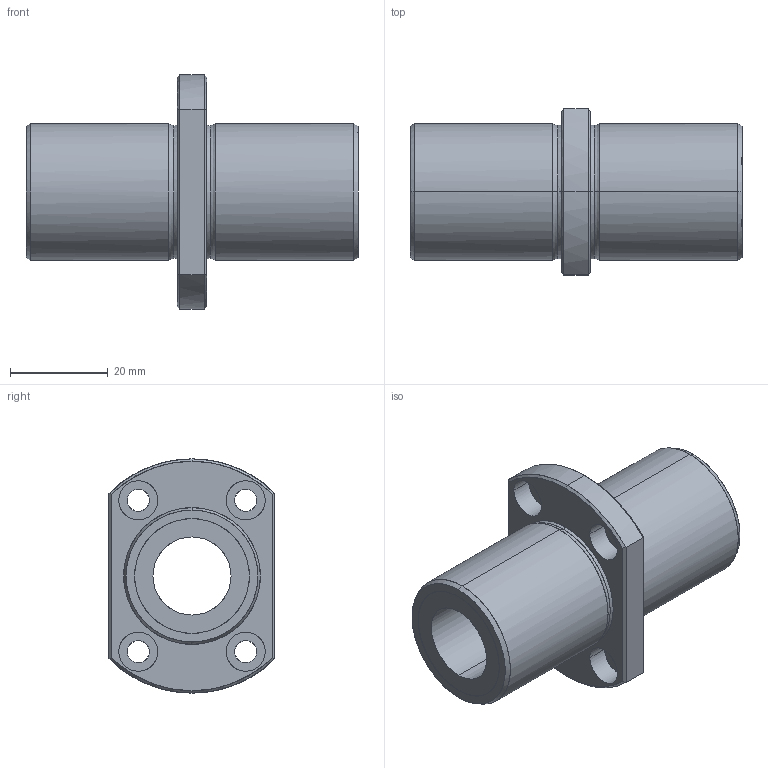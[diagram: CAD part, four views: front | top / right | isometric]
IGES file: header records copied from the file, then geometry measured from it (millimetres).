
Global section: file name: No Iges File Name specified; native system: AutoDesk Inventor R10; preprocessor: AutoDesk Inventor Iges Exporter R10; author: No Author specified; organization: No Organization specified; date: 20101211.155728; units: millimetre
Bounding box: 68 x 34 x 48 mm (x, y, z)
Surface area: 12604.1 mm2 (no closed solid volume)
Topology: 0 solids, 0 shells, 66 faces, 416 edges, 416 vertices
Faces by surface type: bspline 66
